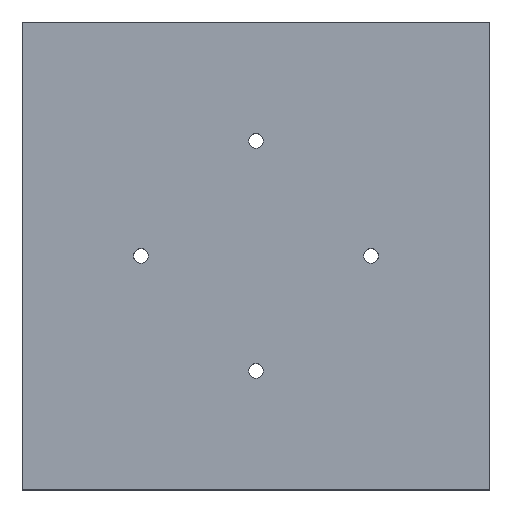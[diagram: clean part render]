
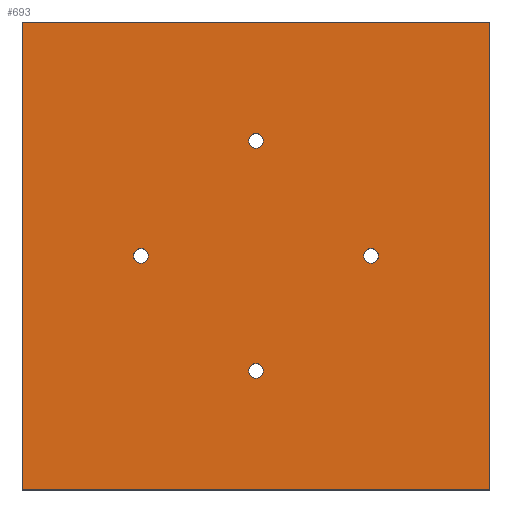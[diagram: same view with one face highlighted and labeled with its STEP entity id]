
A CAD part, top view. The second image highlights one B-rep face of the part: STEP entity #693.
In plain terms, the highlighted planar face has unit normal (0, 0, 1).
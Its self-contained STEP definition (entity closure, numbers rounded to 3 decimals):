
#7 = EDGE_CURVE ( 'NONE', #1110, #54, #592, .T. ) ;
#27 = CIRCLE ( 'NONE', #1001, 1. ) ;
#43 = CARTESIAN_POINT ( 'NONE',  ( 0., 0., 12.5 ) ) ;
#54 = VERTEX_POINT ( 'NONE', #765 ) ;
#80 = CARTESIAN_POINT ( 'NONE',  ( 0., 0., 12.5 ) ) ;
#85 = DIRECTION ( 'NONE',  ( 1., 0., 0. ) ) ;
#127 = EDGE_CURVE ( 'NONE', #1810, #913, #680, .T. ) ;
#131 = DIRECTION ( 'NONE',  ( 0., 0., 1. ) ) ;
#134 = DIRECTION ( 'NONE',  ( 0., 1., 0. ) ) ;
#149 = DIRECTION ( 'NONE',  ( 0., 0., 1. ) ) ;
#187 = EDGE_LOOP ( 'NONE', ( #496, #1185, #2041, #1263 ) ) ;
#218 = CIRCLE ( 'NONE', #447, 1. ) ;
#222 = DIRECTION ( 'NONE',  ( -1., 0., 0. ) ) ;
#255 = AXIS2_PLACEMENT_3D ( 'NONE', #1379, #1870, #1388 ) ;
#309 = VERTEX_POINT ( 'NONE', #912 ) ;
#324 = CARTESIAN_POINT ( 'NONE',  ( 63., 63., 12.5 ) ) ;
#366 = DIRECTION ( 'NONE',  ( 1., 0., 0. ) ) ;
#374 = CARTESIAN_POINT ( 'NONE',  ( 32.5, 16., 12.5 ) ) ;
#395 = FACE_BOUND ( 'NONE', #1497, .T. ) ;
#418 = EDGE_LOOP ( 'NONE', ( #1499, #1027 ) ) ;
#436 = DIRECTION ( 'NONE',  ( 0., 0., 1. ) ) ;
#442 = DIRECTION ( 'NONE',  ( 0., 0., 1. ) ) ;
#447 = AXIS2_PLACEMENT_3D ( 'NONE', #1913, #1041, #366 ) ;
#474 = CARTESIAN_POINT ( 'NONE',  ( 0., 63., 12.5 ) ) ;
#484 = AXIS2_PLACEMENT_3D ( 'NONE', #2011, #436, #85 ) ;
#496 = ORIENTED_EDGE ( 'NONE', *, *, #755, .T. ) ;
#516 = VERTEX_POINT ( 'NONE', #2268 ) ;
#522 = AXIS2_PLACEMENT_3D ( 'NONE', #1712, #131, #868 ) ;
#541 = EDGE_CURVE ( 'NONE', #831, #516, #1062, .T. ) ;
#552 = VECTOR ( 'NONE', #576, 1000. ) ;
#570 = VERTEX_POINT ( 'NONE', #324 ) ;
#576 = DIRECTION ( 'NONE',  ( 1., 0., 0. ) ) ;
#592 = LINE ( 'NONE', #1685, #552 ) ;
#653 = DIRECTION ( 'NONE',  ( 1., 0., 0. ) ) ;
#671 = VERTEX_POINT ( 'NONE', #1212 ) ;
#680 = CIRCLE ( 'NONE', #2254, 1. ) ;
#691 = LINE ( 'NONE', #1375, #858 ) ;
#693 = ADVANCED_FACE ( 'NONE', ( #1568, #2275, #1058, #1392, #395 ), #1095, .F. ) ;
#734 = CARTESIAN_POINT ( 'NONE',  ( 15., 31.5, 12.5 ) ) ;
#735 = VECTOR ( 'NONE', #2225, 1000. ) ;
#755 = EDGE_CURVE ( 'NONE', #1123, #1110, #820, .T. ) ;
#765 = CARTESIAN_POINT ( 'NONE',  ( 63., 0., 12.5 ) ) ;
#813 = ORIENTED_EDGE ( 'NONE', *, *, #1737, .F. ) ;
#820 = LINE ( 'NONE', #80, #735 ) ;
#831 = VERTEX_POINT ( 'NONE', #1664 ) ;
#858 = VECTOR ( 'NONE', #1202, 1000. ) ;
#867 = EDGE_LOOP ( 'NONE', ( #1209, #1846 ) ) ;
#868 = DIRECTION ( 'NONE',  ( 1., 0., 0. ) ) ;
#912 = CARTESIAN_POINT ( 'NONE',  ( 17., 31.5, 12.5 ) ) ;
#913 = VERTEX_POINT ( 'NONE', #2124 ) ;
#977 = CARTESIAN_POINT ( 'NONE',  ( 31.5, 16., 12.5 ) ) ;
#1001 = AXIS2_PLACEMENT_3D ( 'NONE', #1420, #2155, #1432 ) ;
#1006 = EDGE_LOOP ( 'NONE', ( #813, #1223 ) ) ;
#1027 = ORIENTED_EDGE ( 'NONE', *, *, #541, .F. ) ;
#1041 = DIRECTION ( 'NONE',  ( 0., 0., 1. ) ) ;
#1058 = FACE_BOUND ( 'NONE', #867, .T. ) ;
#1062 = CIRCLE ( 'NONE', #2093, 1. ) ;
#1093 = ORIENTED_EDGE ( 'NONE', *, *, #1483, .F. ) ;
#1095 = PLANE ( 'NONE',  #1323 ) ;
#1105 = CIRCLE ( 'NONE', #522, 1. ) ;
#1110 = VERTEX_POINT ( 'NONE', #2046 ) ;
#1111 = DIRECTION ( 'NONE',  ( 1., 0., 0. ) ) ;
#1123 = VERTEX_POINT ( 'NONE', #474 ) ;
#1185 = ORIENTED_EDGE ( 'NONE', *, *, #7, .T. ) ;
#1202 = DIRECTION ( 'NONE',  ( -1., 0., 0. ) ) ;
#1209 = ORIENTED_EDGE ( 'NONE', *, *, #1362, .F. ) ;
#1212 = CARTESIAN_POINT ( 'NONE',  ( 46., 31.5, 12.5 ) ) ;
#1223 = ORIENTED_EDGE ( 'NONE', *, *, #1934, .F. ) ;
#1232 = CARTESIAN_POINT ( 'NONE',  ( 63., 0., 12.5 ) ) ;
#1253 = CIRCLE ( 'NONE', #255, 1. ) ;
#1263 = ORIENTED_EDGE ( 'NONE', *, *, #2062, .T. ) ;
#1269 = EDGE_CURVE ( 'NONE', #54, #570, #2281, .T. ) ;
#1316 = CARTESIAN_POINT ( 'NONE',  ( 31.5, 16., 12.5 ) ) ;
#1323 = AXIS2_PLACEMENT_3D ( 'NONE', #43, #1800, #222 ) ;
#1329 = CIRCLE ( 'NONE', #2098, 1. ) ;
#1362 = EDGE_CURVE ( 'NONE', #1369, #309, #27, .T. ) ;
#1369 = VERTEX_POINT ( 'NONE', #734 ) ;
#1375 = CARTESIAN_POINT ( 'NONE',  ( 0., 63., 12.5 ) ) ;
#1379 = CARTESIAN_POINT ( 'NONE',  ( 31.5, 47., 12.5 ) ) ;
#1384 = CARTESIAN_POINT ( 'NONE',  ( 31.5, 47., 12.5 ) ) ;
#1388 = DIRECTION ( 'NONE',  ( 1., 0., 0. ) ) ;
#1392 = FACE_BOUND ( 'NONE', #1006, .T. ) ;
#1420 = CARTESIAN_POINT ( 'NONE',  ( 16., 31.5, 12.5 ) ) ;
#1432 = DIRECTION ( 'NONE',  ( 1., 0., 0. ) ) ;
#1471 = CIRCLE ( 'NONE', #484, 1. ) ;
#1483 = EDGE_CURVE ( 'NONE', #913, #1810, #1329, .T. ) ;
#1497 = EDGE_LOOP ( 'NONE', ( #1093, #2226 ) ) ;
#1499 = ORIENTED_EDGE ( 'NONE', *, *, #1644, .F. ) ;
#1524 = DIRECTION ( 'NONE',  ( 1., 0., 0. ) ) ;
#1568 = FACE_OUTER_BOUND ( 'NONE', #187, .T. ) ;
#1644 = EDGE_CURVE ( 'NONE', #516, #831, #1253, .T. ) ;
#1664 = CARTESIAN_POINT ( 'NONE',  ( 32.5, 47., 12.5 ) ) ;
#1675 = DIRECTION ( 'NONE',  ( 0., 0., 1. ) ) ;
#1685 = CARTESIAN_POINT ( 'NONE',  ( 0., 0., 12.5 ) ) ;
#1712 = CARTESIAN_POINT ( 'NONE',  ( 47., 31.5, 12.5 ) ) ;
#1737 = EDGE_CURVE ( 'NONE', #671, #2192, #1105, .T. ) ;
#1800 = DIRECTION ( 'NONE',  ( 0., 0., -1. ) ) ;
#1810 = VERTEX_POINT ( 'NONE', #374 ) ;
#1834 = VECTOR ( 'NONE', #134, 1000. ) ;
#1846 = ORIENTED_EDGE ( 'NONE', *, *, #2074, .F. ) ;
#1853 = CARTESIAN_POINT ( 'NONE',  ( 48., 31.5, 12.5 ) ) ;
#1870 = DIRECTION ( 'NONE',  ( 0., 0., 1. ) ) ;
#1913 = CARTESIAN_POINT ( 'NONE',  ( 16., 31.5, 12.5 ) ) ;
#1934 = EDGE_CURVE ( 'NONE', #2192, #671, #1471, .T. ) ;
#2011 = CARTESIAN_POINT ( 'NONE',  ( 47., 31.5, 12.5 ) ) ;
#2041 = ORIENTED_EDGE ( 'NONE', *, *, #1269, .T. ) ;
#2046 = CARTESIAN_POINT ( 'NONE',  ( 0., 0., 12.5 ) ) ;
#2062 = EDGE_CURVE ( 'NONE', #570, #1123, #691, .T. ) ;
#2074 = EDGE_CURVE ( 'NONE', #309, #1369, #218, .T. ) ;
#2093 = AXIS2_PLACEMENT_3D ( 'NONE', #1384, #149, #653 ) ;
#2098 = AXIS2_PLACEMENT_3D ( 'NONE', #977, #1675, #1111 ) ;
#2124 = CARTESIAN_POINT ( 'NONE',  ( 30.5, 16., 12.5 ) ) ;
#2155 = DIRECTION ( 'NONE',  ( 0., 0., 1. ) ) ;
#2192 = VERTEX_POINT ( 'NONE', #1853 ) ;
#2225 = DIRECTION ( 'NONE',  ( 0., -1., 0. ) ) ;
#2226 = ORIENTED_EDGE ( 'NONE', *, *, #127, .F. ) ;
#2254 = AXIS2_PLACEMENT_3D ( 'NONE', #1316, #442, #1524 ) ;
#2268 = CARTESIAN_POINT ( 'NONE',  ( 30.5, 47., 12.5 ) ) ;
#2275 = FACE_BOUND ( 'NONE', #418, .T. ) ;
#2281 = LINE ( 'NONE', #1232, #1834 ) ;
